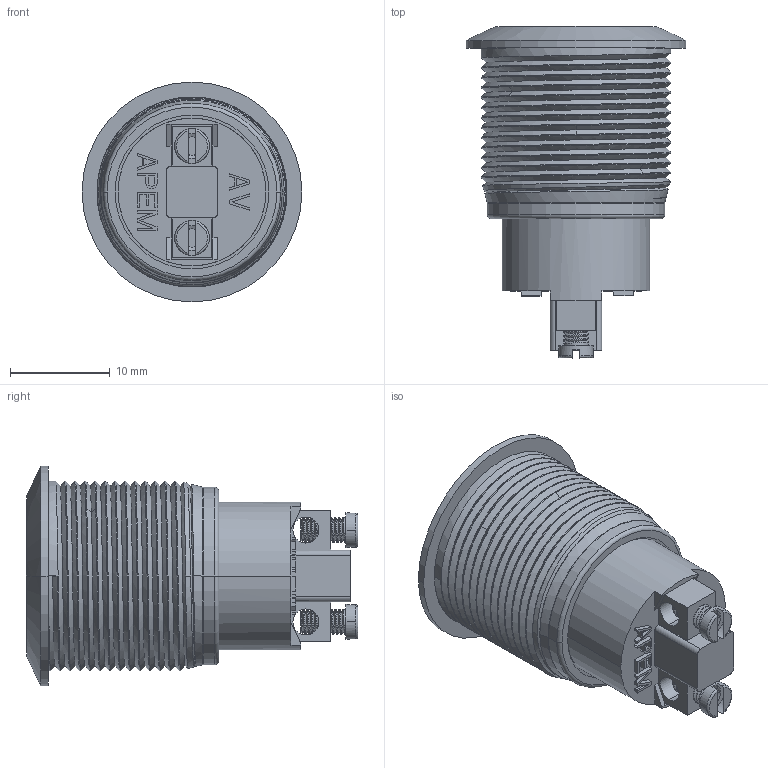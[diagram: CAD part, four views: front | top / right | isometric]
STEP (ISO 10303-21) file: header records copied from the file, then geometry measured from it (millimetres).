
FILE_DESCRIPTION((''),'2;1');
FILE_NAME('AV090003A940KUU','2012-09-25T',('jlgachon'),(''),'PRO/ENGINEER BY PARAMETRIC TECHNOLOGY CORPORATION, 2011250','PRO/ENGINEER BY PARAMETRIC TECHNOLOGY CORPORATION, 2011250','');
FILE_SCHEMA(('CONFIG_CONTROL_DESIGN'));
Length unit declared in the file: millimetre
Products named in the file (1): AV090003A940KUU
Bounding box: 22 x 33.2 x 22 mm (x, y, z)
Surface area: 3016.7 mm2 (no closed solid volume)
Topology: 0 solids, 9 shells, 222 faces, 697 edges, 482 vertices
Faces by surface type: plane 94, cylinder 86, bspline 24, cone 10, torus 8
Entity records: 19318 total; most frequent: CARTESIAN_POINT 13548, ORIENTED_EDGE 1219, DIRECTION 990, EDGE_CURVE 697, VERTEX_POINT 482, VECTOR 412, LINE 412, AXIS2_PLACEMENT_3D 289
